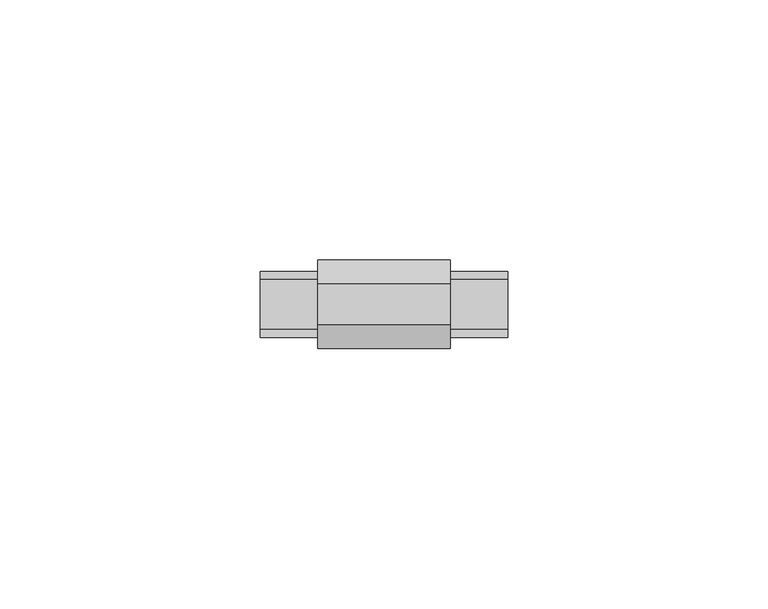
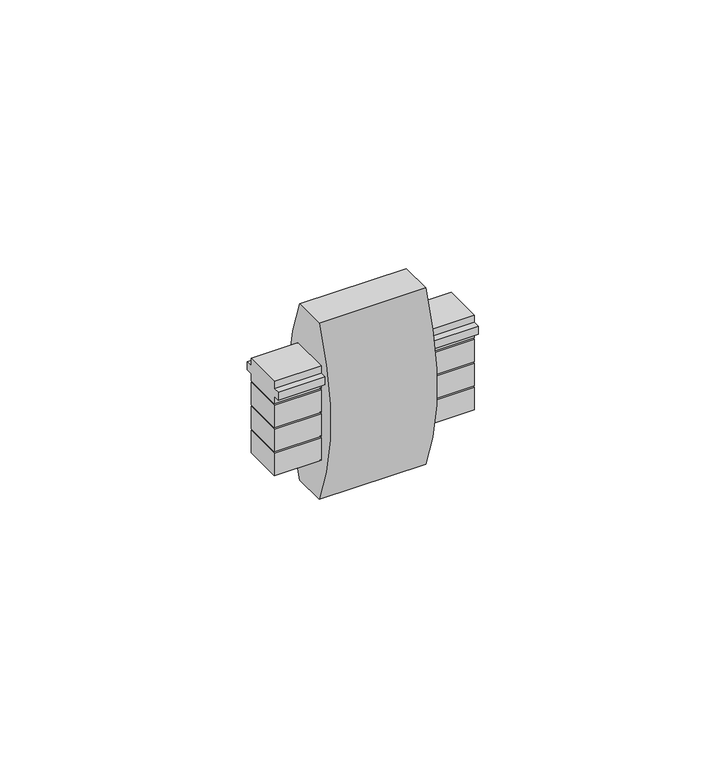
"""IFC4 building model written with IfcOpenShell, lengths in millimetres: proxy geometry, BYRNE 4 TRAC-MM CONNECTOR."""

from ifc_helpers import new_model, si_unit, frame, origin, origin_with_axes, place, context, project, spatial, circle_curve, source, transform, mapped, element, save
from ifc_brep_helpers import plane_surface, cylinder_surface, advanced_brep


def generic_models_6af799cc(model_context):
    return source(origin(), model_context, "Body", "AdvancedBrep", [
        advanced_brep(
        [(25.4, 4.7625, 0.0), (25.4, 4.7625, -44.45), (25.4, 12.7, -44.45), (25.4, 12.7, 0.0), (25.4, 13.49375, -28.0789063), (25.4, 3.96875, -28.0789063), (25.4, 3.96875, -22.4234375), (25.4, 13.49375, -22.4234375), (25.4, 13.49375, -22.0265625), (25.4, 3.96875, -22.0265625), (25.4, 3.96875, -16.3710938), (25.4, 13.49375, -16.3710938), (25.4, 13.49375, -34.13125), (25.4, 3.96875, -34.13125), (25.4, 3.96875, -28.4757813), (25.4, 13.49375, -28.4757813), (25.4, 2.38125, -12.1542969), (25.4, 3.96875, -12.1542969), (25.4, 3.96875, -10.31875), (25.4, 13.49375, -10.31875), (25.4, 13.49375, -12.1542969), (25.4, 15.08125, -12.1542969), (25.4, 15.08125, -14.1386719), (25.4, 13.49375, -14.1386719), (25.4, 13.49375, -15.9742188), (25.4, 3.96875, -15.9742188), (25.4, 3.96875, -14.1386719), (25.4, 2.38125, -14.1386719), (0.0, 4.7625, -44.45), (0.0, 4.7625, 0.0), (0.0, 12.7, 0.0), (0.0, 12.7, -44.45), (0.0, 13.49375, -14.1386719), (0.0, 15.08125, -14.1386719), (0.0, 15.08125, -12.1542969), (0.0, 13.49375, -12.1542969), (0.0, 13.49375, -10.31875), (0.0, 3.96875, -10.31875), (0.0, 3.96875, -12.1542969), (0.0, 2.38125, -12.1542969), (0.0, 2.38125, -14.1386719), (0.0, 3.96875, -14.1386719), (0.0, 3.96875, -15.9742188), (0.0, 13.49375, -15.9742188), (0.0, 3.96875, -34.13125), (0.0, 13.49375, -34.13125), (0.0, 13.49375, -28.4757813), (0.0, 3.96875, -28.4757813), (0.0, 3.96875, -22.0265625), (0.0, 13.49375, -22.0265625), (0.0, 13.49375, -16.3710938), (0.0, 3.96875, -16.3710938), (0.0, 3.96875, -28.0789063), (0.0, 13.49375, -28.0789063), (0.0, 13.49375, -22.4234375), (0.0, 3.96875, -22.4234375), (36.5125, 3.96875, -14.1386719), (36.5125, 3.96875, -15.9742188), (36.5125, 13.49375, -15.9742188), (36.5125, 13.49375, -14.1386719), (36.5125, 15.08125, -14.1386719), (36.5125, 15.08125, -12.1542969), (36.5125, 13.49375, -12.1542969), (36.5125, 13.49375, -10.31875), (36.5125, 3.96875, -10.31875), (36.5125, 3.96875, -12.1542969), (36.5125, 2.38125, -12.1542969), (36.5125, 2.38125, -14.1386719), (36.5125, 3.96875, -28.4757813), (36.5125, 3.96875, -34.13125), (36.5125, 13.49375, -34.13125), (36.5125, 13.49375, -28.4757813), (36.5125, 3.96875, -16.3710938), (36.5125, 3.96875, -22.0265625), (36.5125, 13.49375, -22.0265625), (36.5125, 13.49375, -16.3710938), (-11.1125, 3.96875, -15.9742188), (-11.1125, 3.96875, -14.1386719), (-11.1125, 2.38125, -14.1386719), (-11.1125, 2.38125, -12.1542969), (-11.1125, 3.96875, -12.1542969), (-11.1125, 3.96875, -10.31875), (-11.1125, 13.49375, -10.31875), (-11.1125, 13.49375, -12.1542969), (-11.1125, 15.08125, -12.1542969), (-11.1125, 15.08125, -14.1386719), (-11.1125, 13.49375, -14.1386719), (-11.1125, 13.49375, -15.9742188), (-11.1125, 3.96875, -34.13125), (-11.1125, 3.96875, -28.4757813), (-11.1125, 13.49375, -28.4757813), (-11.1125, 13.49375, -34.13125), (-11.1125, 3.96875, -22.0265625), (-11.1125, 3.96875, -16.3710938), (-11.1125, 13.49375, -16.3710938), (-11.1125, 13.49375, -22.0265625), (-11.1125, 3.96875, -28.0789063), (-11.1125, 3.96875, -22.4234375), (-11.1125, 13.49375, -22.4234375), (-11.1125, 13.49375, -28.0789063), (36.5125, 3.96875, -22.4234375), (36.5125, 3.96875, -28.0789063), (36.5125, 13.49375, -28.0789063), (36.5125, 13.49375, -22.4234375)],
        [
            (0, 1, circle_curve(frame((25.4, 54.2395833, -22.225), z_axis=(1.0, 0.0, 0.0), x_axis=(0.0, 0.9121951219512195, -0.40975609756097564)), 54.2395833)),
            (1, 2),
            (2, 3, circle_curve(frame((25.4, -36.7770833, -22.225), z_axis=(1.0, 0.0, 0.0), x_axis=(0.0, -0.9121951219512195, 0.40975609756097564)), 54.2395833)),
            (3, 0),
            (4, 5),
            (5, 6),
            (6, 7),
            (7, 4),
            (8, 9),
            (9, 10),
            (10, 11),
            (11, 8),
            (12, 13),
            (13, 14),
            (14, 15),
            (15, 12),
            (16, 17),
            (17, 18),
            (18, 19),
            (19, 20),
            (20, 21),
            (21, 22),
            (22, 23),
            (23, 24),
            (24, 25),
            (25, 26),
            (26, 27),
            (27, 16),
            (28, 29, circle_curve(frame((0.0, 54.2395833, -22.225), z_axis=(-1.0, 0.0, 0.0), x_axis=(0.0, 0.9121951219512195, -0.40975609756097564)), 54.2395833)),
            (29, 30),
            (30, 31, circle_curve(frame((0.0, -36.7770833, -22.225), z_axis=(-1.0, 0.0, 0.0), x_axis=(0.0, -0.9121951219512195, 0.40975609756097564)), 54.2395833)),
            (31, 28),
            (32, 33),
            (33, 34),
            (34, 35),
            (35, 36),
            (36, 37),
            (37, 38),
            (38, 39),
            (39, 40),
            (40, 41),
            (41, 42),
            (42, 43),
            (43, 32),
            (44, 45),
            (45, 46),
            (46, 47),
            (47, 44),
            (48, 49),
            (49, 50),
            (50, 51),
            (51, 48),
            (52, 53),
            (53, 54),
            (54, 55),
            (55, 52),
            (56, 57),
            (57, 58),
            (58, 59),
            (59, 60),
            (60, 61),
            (61, 62),
            (62, 63),
            (63, 64),
            (64, 65),
            (65, 66),
            (66, 67),
            (67, 56),
            (68, 69),
            (69, 70),
            (70, 71),
            (71, 68),
            (72, 73),
            (73, 74),
            (74, 75),
            (75, 72),
            (76, 77),
            (77, 78),
            (78, 79),
            (79, 80),
            (80, 81),
            (81, 82),
            (82, 83),
            (83, 84),
            (84, 85),
            (85, 86),
            (86, 87),
            (87, 76),
            (88, 89),
            (89, 90),
            (90, 91),
            (91, 88),
            (92, 93),
            (93, 94),
            (94, 95),
            (95, 92),
            (96, 97),
            (97, 98),
            (98, 99),
            (99, 96),
            (100, 101),
            (101, 102),
            (102, 103),
            (103, 100),
            (4, 102),
            (101, 5),
            (7, 103),
            (6, 100),
            (8, 74),
            (73, 9),
            (11, 75),
            (10, 72),
            (12, 70),
            (69, 13),
            (15, 71),
            (14, 68),
            (22, 60),
            (59, 23),
            (21, 61),
            (20, 62),
            (26, 56),
            (67, 27),
            (16, 66),
            (65, 17),
            (19, 63),
            (58, 24),
            (25, 57),
            (64, 18),
            (32, 86),
            (85, 33),
            (84, 34),
            (83, 35),
            (40, 78),
            (77, 41),
            (38, 80),
            (79, 39),
            (43, 87),
            (76, 42),
            (52, 96),
            (99, 53),
            (98, 54),
            (97, 55),
            (48, 92),
            (95, 49),
            (94, 50),
            (93, 51),
            (44, 88),
            (91, 45),
            (90, 46),
            (89, 47),
            (82, 36),
            (81, 37),
            (30, 3),
            (2, 31),
            (28, 1),
            (0, 29),
        ],
        [
            plane_surface(frame((25.4, 0.0, 0.0), z_axis=(1.0, 0.0, 0.0), x_axis=(0.0, 0.0, -1.0))),
            plane_surface(frame((0.0, 0.0, -44.45), z_axis=(-1.0, 0.0, 0.0), x_axis=(0.0, 0.0, 1.0))),
            plane_surface(frame((36.5125, 8.73125, -13.1464844), z_axis=(1.0, 0.0, 0.0), x_axis=(0.0, 0.0, 1.0))),
            plane_surface(frame((36.5125, 8.73125, -31.3035156), z_axis=(1.0, 0.0, 0.0), x_axis=(0.0, 0.0, 1.0))),
            plane_surface(frame((36.5125, 8.73125, -19.1988281), z_axis=(1.0, 0.0, 0.0), x_axis=(0.0, 0.0, 1.0))),
            plane_surface(frame((-11.1125, 8.73125, -13.1464844), z_axis=(-1.0, 0.0, 0.0), x_axis=(0.0, 0.0, 1.0))),
            plane_surface(frame((-11.1125, 8.73125, -31.3035156), z_axis=(-1.0, 0.0, 0.0), x_axis=(0.0, 0.0, 1.0))),
            plane_surface(frame((-11.1125, 8.73125, -19.1988281), z_axis=(-1.0, 0.0, 0.0), x_axis=(0.0, 0.0, 1.0))),
            plane_surface(frame((-11.1125, 8.73125, -25.2511719), z_axis=(-1.0, 0.0, 0.0), x_axis=(0.0, 0.0, 1.0))),
            plane_surface(frame((36.5125, 8.73125, -25.2511719), z_axis=(1.0, 0.0, 0.0), x_axis=(0.0, 0.0, 1.0))),
            plane_surface(frame((25.4, 13.49375, -28.0789063), z_axis=(0.0, 0.0, -1.0), x_axis=(0.0, -1.0, 0.0))),
            plane_surface(frame((25.4, 13.49375, -22.4234375), z_axis=(0.0, 1.0, 0.0), x_axis=(0.0, 0.0, -1.0))),
            plane_surface(frame((25.4, 3.96875, -22.4234375), z_axis=(0.0, 0.0, 1.0), x_axis=(0.0, 1.0, 0.0))),
            plane_surface(frame((25.4, 3.96875, -28.0789063), z_axis=(0.0, -1.0, 0.0), x_axis=(0.0, 0.0, 1.0))),
            plane_surface(frame((25.4, 13.49375, -22.0265625), z_axis=(0.0, 0.0, -1.0), x_axis=(0.0, -1.0, 0.0))),
            plane_surface(frame((25.4, 13.49375, -16.3710938), z_axis=(0.0, 1.0, 0.0), x_axis=(0.0, 0.0, -1.0))),
            plane_surface(frame((25.4, 3.96875, -16.3710938), z_axis=(0.0, 0.0, 1.0), x_axis=(0.0, 1.0, 0.0))),
            plane_surface(frame((25.4, 3.96875, -22.0265625), z_axis=(0.0, -1.0, 0.0), x_axis=(0.0, 0.0, 1.0))),
            plane_surface(frame((25.4, 13.49375, -34.13125), z_axis=(0.0, 0.0, -1.0), x_axis=(0.0, -1.0, 0.0))),
            plane_surface(frame((25.4, 13.49375, -28.4757813), z_axis=(0.0, 1.0, 0.0), x_axis=(0.0, 0.0, -1.0))),
            plane_surface(frame((25.4, 3.96875, -28.4757813), z_axis=(0.0, 0.0, 1.0), x_axis=(0.0, 1.0, 0.0))),
            plane_surface(frame((25.4, 3.96875, -34.13125), z_axis=(0.0, -1.0, 0.0), x_axis=(0.0, 0.0, 1.0))),
            plane_surface(frame((25.4, 15.08125, -14.1386719), z_axis=(0.0, 0.0, -1.0), x_axis=(0.0, -1.0, 0.0))),
            plane_surface(frame((25.4, 15.08125, -12.1542969), z_axis=(0.0, 1.0, 0.0), x_axis=(0.0, 0.0, -1.0))),
            plane_surface(frame((25.4, 13.49375, -12.1542969), z_axis=(0.0, 0.0, 1.0), x_axis=(0.0, 1.0, 0.0))),
            plane_surface(frame((25.4, 3.96875, -14.1386719), z_axis=(0.0, 0.0, -1.0), x_axis=(0.0, -1.0, 0.0))),
            plane_surface(frame((25.4, 2.38125, -12.1542969), z_axis=(0.0, 0.0, 1.0), x_axis=(0.0, 1.0, 0.0))),
            plane_surface(frame((25.4, 2.38125, -14.1386719), z_axis=(0.0, -1.0, 0.0), x_axis=(0.0, 0.0, 1.0))),
            plane_surface(frame((25.4, 13.49375, -10.31875), z_axis=(0.0, 1.0, 0.0), x_axis=(0.0, 0.0, -1.0))),
            plane_surface(frame((25.4, 3.96875, -15.9742188), z_axis=(0.0, -1.0, 0.0), x_axis=(0.0, 0.0, 1.0))),
            plane_surface(frame((25.4, 13.49375, -15.9742188), z_axis=(0.0, 0.0, -1.0), x_axis=(0.0, -1.0, 0.0))),
            plane_surface(frame((25.4, 3.96875, -10.31875), z_axis=(0.0, 0.0, 1.0), x_axis=(0.0, 1.0, 0.0))),
            plane_surface(frame((0.0, 15.08125, -14.1386719), z_axis=(0.0, 0.0, -1.0), x_axis=(0.0, -1.0, 0.0))),
            plane_surface(frame((0.0, 15.08125, -12.1542969), z_axis=(0.0, 1.0, 0.0), x_axis=(0.0, 0.0, -1.0))),
            plane_surface(frame((0.0, 13.49375, -12.1542969), z_axis=(0.0, 0.0, 1.0), x_axis=(0.0, 1.0, 0.0))),
            plane_surface(frame((0.0, 3.96875, -14.1386719), z_axis=(0.0, 0.0, -1.0), x_axis=(0.0, -1.0, 0.0))),
            plane_surface(frame((0.0, 2.38125, -12.1542969), z_axis=(0.0, 0.0, 1.0), x_axis=(0.0, 1.0, 0.0))),
            plane_surface(frame((0.0, 2.38125, -14.1386719), z_axis=(0.0, -1.0, 0.0), x_axis=(0.0, 0.0, 1.0))),
            plane_surface(frame((0.0, 13.49375, -10.31875), z_axis=(0.0, 1.0, 0.0), x_axis=(0.0, 0.0, -1.0))),
            plane_surface(frame((0.0, 3.96875, -15.9742188), z_axis=(0.0, -1.0, 0.0), x_axis=(0.0, 0.0, 1.0))),
            plane_surface(frame((0.0, 13.49375, -28.0789063), z_axis=(0.0, 0.0, -1.0), x_axis=(0.0, -1.0, 0.0))),
            plane_surface(frame((0.0, 13.49375, -22.4234375), z_axis=(0.0, 1.0, 0.0), x_axis=(0.0, 0.0, -1.0))),
            plane_surface(frame((0.0, 3.96875, -22.4234375), z_axis=(0.0, 0.0, 1.0), x_axis=(0.0, 1.0, 0.0))),
            plane_surface(frame((0.0, 3.96875, -28.0789063), z_axis=(0.0, -1.0, 0.0), x_axis=(0.0, 0.0, 1.0))),
            plane_surface(frame((0.0, 13.49375, -22.0265625), z_axis=(0.0, 0.0, -1.0), x_axis=(0.0, -1.0, 0.0))),
            plane_surface(frame((0.0, 13.49375, -16.3710938), z_axis=(0.0, 1.0, 0.0), x_axis=(0.0, 0.0, -1.0))),
            plane_surface(frame((0.0, 3.96875, -16.3710938), z_axis=(0.0, 0.0, 1.0), x_axis=(0.0, 1.0, 0.0))),
            plane_surface(frame((0.0, 3.96875, -22.0265625), z_axis=(0.0, -1.0, 0.0), x_axis=(0.0, 0.0, 1.0))),
            plane_surface(frame((0.0, 13.49375, -34.13125), z_axis=(0.0, 0.0, -1.0), x_axis=(0.0, -1.0, 0.0))),
            plane_surface(frame((0.0, 13.49375, -28.4757813), z_axis=(0.0, 1.0, 0.0), x_axis=(0.0, 0.0, -1.0))),
            plane_surface(frame((0.0, 3.96875, -28.4757813), z_axis=(0.0, 0.0, 1.0), x_axis=(0.0, 1.0, 0.0))),
            plane_surface(frame((0.0, 3.96875, -34.13125), z_axis=(0.0, -1.0, 0.0), x_axis=(0.0, 0.0, 1.0))),
            plane_surface(frame((0.0, 13.49375, -15.9742188), z_axis=(0.0, 0.0, -1.0), x_axis=(0.0, -1.0, 0.0))),
            plane_surface(frame((0.0, 3.96875, -10.31875), z_axis=(0.0, 0.0, 1.0), x_axis=(0.0, 1.0, 0.0))),
            cylinder_surface(frame((25.4, -36.7770833, -22.225), z_axis=(-1.0, 0.0, 0.0), x_axis=(0.0, -0.9121951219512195, 0.40975609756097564)), 54.2395833),
            cylinder_surface(frame((25.4, 54.2395833, -22.225), z_axis=(-1.0, 0.0, 0.0), x_axis=(0.0, 0.9121951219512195, -0.40975609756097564)), 54.2395833),
            plane_surface(frame((25.4, 0.0, -44.45), z_axis=(0.0, 0.0, -1.0), x_axis=(-1.0, 0.0, 0.0))),
            plane_surface(origin_with_axes()),
        ],
        [
            (0, [[1, 2, 3, 4], [5, 6, 7, 8], [9, 10, 11, 12], [13, 14, 15, 16], [17, 18, 19, 20, 21, 22, 23, 24, 25, 26, 27, 28]]),
            (1, [[29, 30, 31, 32], [33, 34, 35, 36, 37, 38, 39, 40, 41, 42, 43, 44], [45, 46, 47, 48], [49, 50, 51, 52], [53, 54, 55, 56]]),
            (2, [[57, 58, 59, 60, 61, 62, 63, 64, 65, 66, 67, 68]]),
            (3, [[69, 70, 71, 72]]),
            (4, [[73, 74, 75, 76]]),
            (5, [[77, 78, 79, 80, 81, 82, 83, 84, 85, 86, 87, 88]]),
            (6, [[89, 90, 91, 92]]),
            (7, [[93, 94, 95, 96]]),
            (8, [[97, 98, 99, 100]]),
            (9, [[101, 102, 103, 104]]),
            (10, [[-5, 105, -102, 106]]),
            (11, [[-8, 107, -103, -105]]),
            (12, [[-7, 108, -104, -107]]),
            (13, [[-6, -106, -101, -108]]),
            (14, [[-9, 109, -74, 110]]),
            (15, [[-12, 111, -75, -109]]),
            (16, [[-11, 112, -76, -111]]),
            (17, [[-10, -110, -73, -112]]),
            (18, [[-13, 113, -70, 114]]),
            (19, [[-16, 115, -71, -113]]),
            (20, [[-15, 116, -72, -115]]),
            (21, [[-14, -114, -69, -116]]),
            (22, [[-23, 117, -60, 118]]),
            (23, [[-22, 119, -61, -117]]),
            (24, [[-21, 120, -62, -119]]),
            (25, [[-27, 121, -68, 122]]),
            (26, [[-17, 123, -66, 124]]),
            (27, [[-28, -122, -67, -123]]),
            (28, [[-120, -20, 125, -63]]),
            (28, [[-118, -59, 126, -24]]),
            (29, [[-121, -26, 127, -57]]),
            (29, [[-124, -65, 128, -18]]),
            (30, [[-25, -126, -58, -127]]),
            (31, [[-19, -128, -64, -125]]),
            (32, [[-33, 129, -86, 130]]),
            (33, [[-34, -130, -85, 131]]),
            (34, [[-35, -131, -84, 132]]),
            (35, [[-41, 133, -78, 134]]),
            (36, [[-39, 135, -80, 136]]),
            (37, [[-40, -136, -79, -133]]),
            (38, [[-129, -44, 137, -87]]),
            (39, [[-134, -77, 138, -42]]),
            (40, [[-53, 139, -100, 140]]),
            (41, [[-54, -140, -99, 141]]),
            (42, [[-55, -141, -98, 142]]),
            (43, [[-56, -142, -97, -139]]),
            (44, [[-49, 143, -96, 144]]),
            (45, [[-50, -144, -95, 145]]),
            (46, [[-51, -145, -94, 146]]),
            (47, [[-52, -146, -93, -143]]),
            (48, [[-45, 147, -92, 148]]),
            (49, [[-46, -148, -91, 149]]),
            (50, [[-47, -149, -90, 150]]),
            (51, [[-48, -150, -89, -147]]),
            (52, [[-43, -138, -88, -137]]),
            (38, [[-132, -83, 151, -36]]),
            (53, [[-37, -151, -82, 152]]),
            (39, [[-135, -38, -152, -81]]),
            (54, [[-31, 153, -3, 154]]),
            (55, [[-29, 155, -1, 156]]),
            (56, [[-154, -2, -155, -32]]),
            (57, [[-153, -30, -156, -4]]),
        ],
    ),
    ])


if __name__ == "__main__":
    model = new_model("IFC4")
    model_context = context("Model", 3, world=origin())
    ifc_project = project(units=[si_unit("LENGTHUNIT", "METRE", prefix="MILLI")], contexts=[model_context])
    site = spatial("IfcSite", under=ifc_project)
    building = spatial("IfcBuilding", under=site)
    placement = place(None, origin())
    generic_models_shape = generic_models_6af799cc(model_context)
    element("IfcBuildingElementProxy", 1, Name="BYRNE 4 TRAC-MM CONNECTOR", ObjectType="BYRNE 4 TRAC-MM CONNECTOR", at=placement, inside=building, context=model_context, shape_type="MappedRepresentation", body=[
        mapped(generic_models_shape, transform((0.0, 0.0, 0.0), x_axis=(1.0, 0.0, 0.0), y_axis=(0.0, 1.0, 0.0), z_axis=(0.0, 0.0, 1.0))),
    ])
    save(model, "model.ifc")
